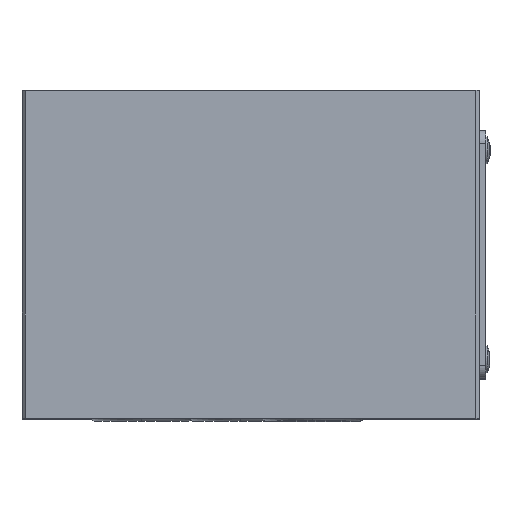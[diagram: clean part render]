
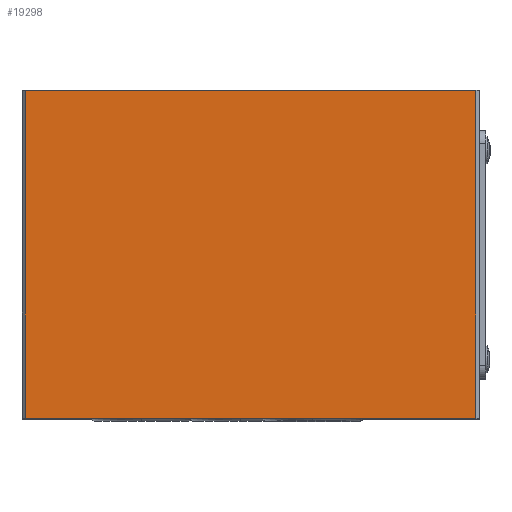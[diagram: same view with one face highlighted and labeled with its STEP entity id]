
A CAD part, top view. The second image highlights one B-rep face of the part: STEP entity #19298.
In plain terms, the highlighted planar face has unit normal (0, 0, 1).
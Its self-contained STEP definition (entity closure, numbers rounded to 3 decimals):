
#2570 = LINE ( 'NONE', #11873, #14910 ) ;
#4890 = EDGE_CURVE ( 'NONE', #55143, #44997, #57490, .T. ) ;
#6164 = CARTESIAN_POINT ( 'NONE',  ( 34.5, -25.1, 52.5 ) ) ;
#7139 = EDGE_CURVE ( 'NONE', #56776, #56636, #2570, .T. ) ;
#11873 = CARTESIAN_POINT ( 'NONE',  ( 35., -25.1, 52.5 ) ) ;
#13342 = CARTESIAN_POINT ( 'NONE',  ( 34.5, 25.1, 52.5 ) ) ;
#14910 = VECTOR ( 'NONE', #26448, 1000. ) ;
#14979 = PLANE ( 'NONE',  #58086 ) ;
#19298 = ADVANCED_FACE ( 'NONE', ( #34999 ), #14979, .F. ) ;
#19782 = VECTOR ( 'NONE', #30243, 1000. ) ;
#20239 = EDGE_CURVE ( 'NONE', #56776, #44997, #33652, .T. ) ;
#20789 = CARTESIAN_POINT ( 'NONE',  ( 35., 25.1, 52.5 ) ) ;
#21113 = DIRECTION ( 'NONE',  ( 0., 1., 0. ) ) ;
#21705 = ORIENTED_EDGE ( 'NONE', *, *, #20239, .T. ) ;
#24334 = CARTESIAN_POINT ( 'NONE',  ( -34.5, 25.1, 52.5 ) ) ;
#24761 = CARTESIAN_POINT ( 'NONE',  ( -34.5, -25.1, 52.5 ) ) ;
#25651 = DIRECTION ( 'NONE',  ( 1., 0., 0. ) ) ;
#26372 = CARTESIAN_POINT ( 'NONE',  ( 34.5, -25.1, 52.5 ) ) ;
#26448 = DIRECTION ( 'NONE',  ( -1., 0., 0. ) ) ;
#26537 = ORIENTED_EDGE ( 'NONE', *, *, #48955, .T. ) ;
#30243 = DIRECTION ( 'NONE',  ( 0., -1., 0. ) ) ;
#33340 = CARTESIAN_POINT ( 'NONE',  ( -34.5, -25.1, 52.5 ) ) ;
#33652 = LINE ( 'NONE', #26372, #54167 ) ;
#34999 = FACE_OUTER_BOUND ( 'NONE', #49243, .T. ) ;
#38772 = DIRECTION ( 'NONE',  ( -1., 0., 0. ) ) ;
#44997 = VERTEX_POINT ( 'NONE', #13342 ) ;
#45060 = VECTOR ( 'NONE', #25651, 1000. ) ;
#48559 = DIRECTION ( 'NONE',  ( 0., 0., -1. ) ) ;
#48955 = EDGE_CURVE ( 'NONE', #55143, #56636, #59941, .T. ) ;
#49243 = EDGE_LOOP ( 'NONE', ( #58130, #21705, #53074, #26537 ) ) ;
#53074 = ORIENTED_EDGE ( 'NONE', *, *, #4890, .F. ) ;
#54167 = VECTOR ( 'NONE', #21113, 1000. ) ;
#55143 = VERTEX_POINT ( 'NONE', #24334 ) ;
#56636 = VERTEX_POINT ( 'NONE', #33340 ) ;
#56776 = VERTEX_POINT ( 'NONE', #6164 ) ;
#57490 = LINE ( 'NONE', #20789, #45060 ) ;
#57785 = CARTESIAN_POINT ( 'NONE',  ( 35., -25.1, 52.5 ) ) ;
#58086 = AXIS2_PLACEMENT_3D ( 'NONE', #57785, #48559, #38772 ) ;
#58130 = ORIENTED_EDGE ( 'NONE', *, *, #7139, .F. ) ;
#59941 = LINE ( 'NONE', #24761, #19782 ) ;
